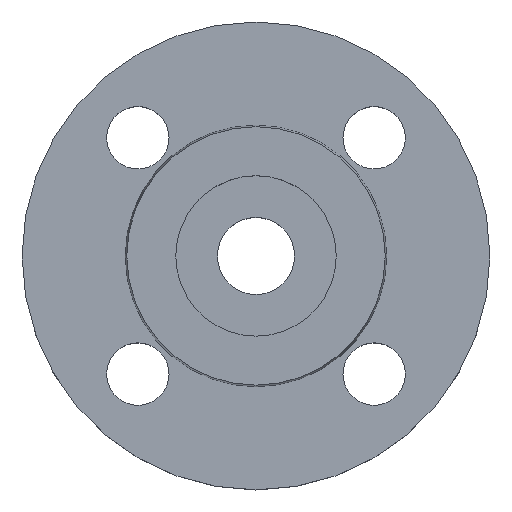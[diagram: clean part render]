
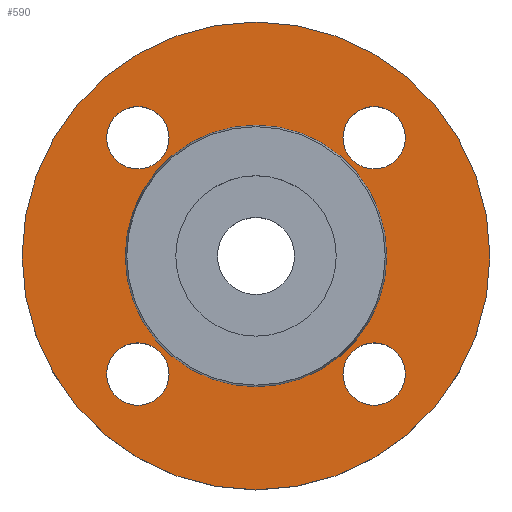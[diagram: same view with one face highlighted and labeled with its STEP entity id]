
A CAD part, top view. The second image highlights one B-rep face of the part: STEP entity #590.
In plain terms, the highlighted planar face has unit normal (0, 0, 1).
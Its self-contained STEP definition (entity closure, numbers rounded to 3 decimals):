
#2 = CIRCLE ( 'NONE', #5, 7. ) ;
#5 = AXIS2_PLACEMENT_3D ( 'NONE', #14, #9, #8 ) ;
#8 = DIRECTION ( 'NONE',  ( 1., 0., 0. ) ) ;
#9 = DIRECTION ( 'NONE',  ( 0., 0., -1. ) ) ;
#14 = CARTESIAN_POINT ( 'NONE',  ( 26.517, -26.517, -2. ) ) ;
#27 = DIRECTION ( 'NONE',  ( -1., 0., 0. ) ) ;
#28 = DIRECTION ( 'NONE',  ( 0., 0., -1. ) ) ;
#29 = CARTESIAN_POINT ( 'NONE',  ( 0., 0., -2. ) ) ;
#32 = AXIS2_PLACEMENT_3D ( 'NONE', #74, #73, #72 ) ;
#52 = DIRECTION ( 'NONE',  ( 1., 0., 0. ) ) ;
#54 = DIRECTION ( 'NONE',  ( 0., 0., -1. ) ) ;
#55 = CARTESIAN_POINT ( 'NONE',  ( 26.517, 26.517, -2. ) ) ;
#64 = DIRECTION ( 'NONE',  ( 1., 0., 0. ) ) ;
#65 = DIRECTION ( 'NONE',  ( 0., 0., -1. ) ) ;
#67 = CARTESIAN_POINT ( 'NONE',  ( 26.517, -26.517, -2. ) ) ;
#68 = AXIS2_PLACEMENT_3D ( 'NONE', #29, #28, #27 ) ;
#71 = CARTESIAN_POINT ( 'NONE',  ( 52.5, 0., -2. ) ) ;
#72 = DIRECTION ( 'NONE',  ( 1., 0., 0. ) ) ;
#73 = DIRECTION ( 'NONE',  ( 0., 0., -1. ) ) ;
#74 = CARTESIAN_POINT ( 'NONE',  ( -26.517, -26.517, -2. ) ) ;
#88 = CARTESIAN_POINT ( 'NONE',  ( 19.517, 26.517, -2. ) ) ;
#91 = CARTESIAN_POINT ( 'NONE',  ( -52.5, 0., -2. ) ) ;
#92 = CARTESIAN_POINT ( 'NONE',  ( 33.517, -26.517, -2. ) ) ;
#98 = CIRCLE ( 'NONE', #594, 7. ) ;
#99 = AXIS2_PLACEMENT_3D ( 'NONE', #409, #407, #406 ) ;
#106 = CARTESIAN_POINT ( 'NONE',  ( 29.353, 0., -2. ) ) ;
#107 = CARTESIAN_POINT ( 'NONE',  ( -19.517, -26.517, -2. ) ) ;
#116 = EDGE_CURVE ( 'NONE', #734, #693, #502, .T. ) ;
#133 = CIRCLE ( 'NONE', #397, 7. ) ;
#137 = EDGE_CURVE ( 'NONE', #608, #636, #98, .T. ) ;
#142 = DIRECTION ( 'NONE',  ( 1., 0., 0. ) ) ;
#148 = AXIS2_PLACEMENT_3D ( 'NONE', #55, #54, #52 ) ;
#149 = FACE_BOUND ( 'NONE', #631, .T. ) ;
#151 = AXIS2_PLACEMENT_3D ( 'NONE', #509, #512, #518 ) ;
#153 = AXIS2_PLACEMENT_3D ( 'NONE', #320, #319, #318 ) ;
#155 = FACE_BOUND ( 'NONE', #643, .T. ) ;
#159 = CARTESIAN_POINT ( 'NONE',  ( 29.353, 0., -2. ) ) ;
#168 = CARTESIAN_POINT ( 'NONE',  ( 0., 0., -2. ) ) ;
#170 = CARTESIAN_POINT ( 'NONE',  ( 19.517, -26.517, -2. ) ) ;
#172 = DIRECTION ( 'NONE',  ( 0., 0., -1. ) ) ;
#174 = CARTESIAN_POINT ( 'NONE',  ( -29.353, 0., -2. ) ) ;
#181 = DIRECTION ( 'NONE',  ( 0., 0., 1. ) ) ;
#183 = CIRCLE ( 'NONE', #689, 7. ) ;
#188 = FACE_BOUND ( 'NONE', #617, .T. ) ;
#189 = AXIS2_PLACEMENT_3D ( 'NONE', #168, #172, #449 ) ;
#190 = FACE_BOUND ( 'NONE', #721, .T. ) ;
#191 = PLANE ( 'NONE',  #498 ) ;
#193 = CARTESIAN_POINT ( 'NONE',  ( -19.517, 26.517, -2. ) ) ;
#196 = EDGE_CURVE ( 'NONE', #636, #608, #788, .T. ) ;
#197 = CARTESIAN_POINT ( 'NONE',  ( -33.517, 26.517, -2. ) ) ;
#198 = DIRECTION ( 'NONE',  ( 0., 0., -1. ) ) ;
#199 = FACE_OUTER_BOUND ( 'NONE', #749, .T. ) ;
#217 = DIRECTION ( 'NONE',  ( 0., 0., -1. ) ) ;
#218 = DIRECTION ( 'NONE',  ( 1., 0., 0. ) ) ;
#224 = CARTESIAN_POINT ( 'NONE',  ( 33.517, 26.517, -2. ) ) ;
#289 = AXIS2_PLACEMENT_3D ( 'NONE', #465, #198, #785 ) ;
#318 = DIRECTION ( 'NONE',  ( 1., 0., 0. ) ) ;
#319 = DIRECTION ( 'NONE',  ( 0., 0., -1. ) ) ;
#320 = CARTESIAN_POINT ( 'NONE',  ( 26.517, 26.517, -2. ) ) ;
#332 = ORIENTED_EDGE ( 'NONE', *, *, #786, .T. ) ;
#339 = CIRCLE ( 'NONE', #153, 7. ) ;
#356 = CIRCLE ( 'NONE', #32, 7. ) ;
#362 = EDGE_CURVE ( 'NONE', #540, #695, #339, .T. ) ;
#397 = AXIS2_PLACEMENT_3D ( 'NONE', #67, #65, #64 ) ;
#402 = CARTESIAN_POINT ( 'NONE',  ( -33.517, -26.517, -2. ) ) ;
#406 = DIRECTION ( 'NONE',  ( 1., 0., 0. ) ) ;
#407 = DIRECTION ( 'NONE',  ( 0., 0., -1. ) ) ;
#409 = CARTESIAN_POINT ( 'NONE',  ( -26.517, 26.517, -2. ) ) ;
#412 = CIRCLE ( 'NONE', #189, 29.353 ) ;
#433 = CIRCLE ( 'NONE', #68, 29.353 ) ;
#445 = CARTESIAN_POINT ( 'NONE',  ( -26.517, -26.517, -2. ) ) ;
#449 = DIRECTION ( 'NONE',  ( -1., 0., 0. ) ) ;
#451 = DIRECTION ( 'NONE',  ( 1., 0., 0. ) ) ;
#454 = DIRECTION ( 'NONE',  ( 0., 0., -1. ) ) ;
#457 = CARTESIAN_POINT ( 'NONE',  ( -26.517, 26.517, -2. ) ) ;
#465 = CARTESIAN_POINT ( 'NONE',  ( 0., 0., -2. ) ) ;
#498 = AXIS2_PLACEMENT_3D ( 'NONE', #159, #181, #142 ) ;
#502 = CIRCLE ( 'NONE', #289, 52.5 ) ;
#509 = CARTESIAN_POINT ( 'NONE',  ( 0., 0., -2. ) ) ;
#512 = DIRECTION ( 'NONE',  ( 0., 0., -1. ) ) ;
#518 = DIRECTION ( 'NONE',  ( -1., 0., 0. ) ) ;
#529 = CIRCLE ( 'NONE', #148, 7. ) ;
#540 = VERTEX_POINT ( 'NONE', #224 ) ;
#569 = FACE_BOUND ( 'NONE', #582, .T. ) ;
#580 = CIRCLE ( 'NONE', #151, 52.5 ) ;
#582 = EDGE_LOOP ( 'NONE', ( #750, #751 ) ) ;
#590 = ADVANCED_FACE ( 'NONE', ( #149, #569, #155, #188, #190, #199 ), #191, .T. ) ;
#594 = AXIS2_PLACEMENT_3D ( 'NONE', #457, #454, #451 ) ;
#608 = VERTEX_POINT ( 'NONE', #197 ) ;
#617 = EDGE_LOOP ( 'NONE', ( #757, #762 ) ) ;
#619 = VERTEX_POINT ( 'NONE', #174 ) ;
#623 = EDGE_CURVE ( 'NONE', #671, #619, #412, .T. ) ;
#625 = VERTEX_POINT ( 'NONE', #170 ) ;
#630 = VERTEX_POINT ( 'NONE', #402 ) ;
#631 = EDGE_LOOP ( 'NONE', ( #744, #748 ) ) ;
#636 = VERTEX_POINT ( 'NONE', #193 ) ;
#643 = EDGE_LOOP ( 'NONE', ( #753, #754 ) ) ;
#649 = EDGE_CURVE ( 'NONE', #693, #734, #580, .T. ) ;
#659 = EDGE_CURVE ( 'NONE', #669, #630, #183, .T. ) ;
#669 = VERTEX_POINT ( 'NONE', #107 ) ;
#671 = VERTEX_POINT ( 'NONE', #106 ) ;
#688 = VERTEX_POINT ( 'NONE', #92 ) ;
#689 = AXIS2_PLACEMENT_3D ( 'NONE', #445, #217, #218 ) ;
#693 = VERTEX_POINT ( 'NONE', #91 ) ;
#695 = VERTEX_POINT ( 'NONE', #88 ) ;
#721 = EDGE_LOOP ( 'NONE', ( #332, #765 ) ) ;
#731 = EDGE_CURVE ( 'NONE', #630, #669, #356, .T. ) ;
#734 = VERTEX_POINT ( 'NONE', #71 ) ;
#744 = ORIENTED_EDGE ( 'NONE', *, *, #745, .T. ) ;
#745 = EDGE_CURVE ( 'NONE', #688, #625, #133, .T. ) ;
#748 = ORIENTED_EDGE ( 'NONE', *, *, #802, .T. ) ;
#749 = EDGE_LOOP ( 'NONE', ( #766, #769 ) ) ;
#750 = ORIENTED_EDGE ( 'NONE', *, *, #659, .T. ) ;
#751 = ORIENTED_EDGE ( 'NONE', *, *, #731, .T. ) ;
#753 = ORIENTED_EDGE ( 'NONE', *, *, #196, .T. ) ;
#754 = ORIENTED_EDGE ( 'NONE', *, *, #137, .T. ) ;
#757 = ORIENTED_EDGE ( 'NONE', *, *, #362, .T. ) ;
#760 = EDGE_CURVE ( 'NONE', #695, #540, #529, .T. ) ;
#762 = ORIENTED_EDGE ( 'NONE', *, *, #760, .T. ) ;
#765 = ORIENTED_EDGE ( 'NONE', *, *, #623, .T. ) ;
#766 = ORIENTED_EDGE ( 'NONE', *, *, #116, .F. ) ;
#769 = ORIENTED_EDGE ( 'NONE', *, *, #649, .F. ) ;
#785 = DIRECTION ( 'NONE',  ( -1., 0., 0. ) ) ;
#786 = EDGE_CURVE ( 'NONE', #619, #671, #433, .T. ) ;
#788 = CIRCLE ( 'NONE', #99, 7. ) ;
#802 = EDGE_CURVE ( 'NONE', #625, #688, #2, .T. ) ;
